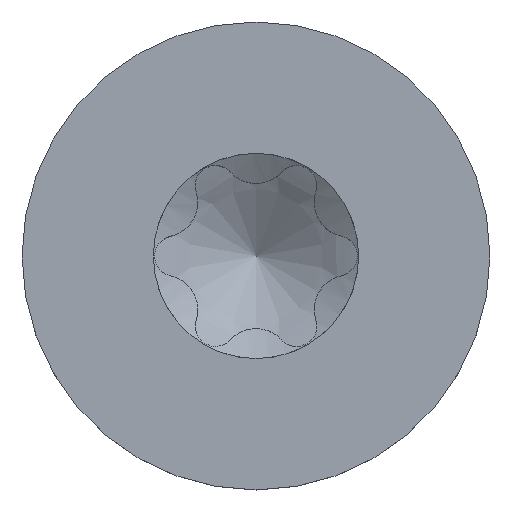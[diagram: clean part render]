
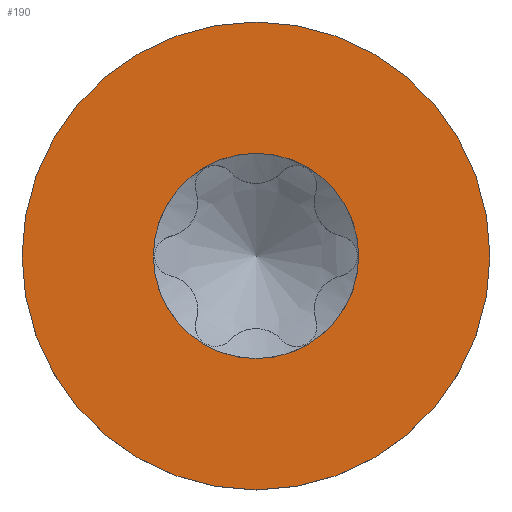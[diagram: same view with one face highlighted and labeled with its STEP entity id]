
A CAD part, top view. The second image highlights one B-rep face of the part: STEP entity #190.
In plain terms, the highlighted planar face has unit normal (0, 0, 1).
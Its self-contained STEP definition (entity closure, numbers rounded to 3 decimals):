
#119=PLANE('',#839);
#190=ADVANCED_FACE('',(#314,#315),#119,.F.);
#314=FACE_BOUND('',#336,.T.);
#315=FACE_BOUND('',#337,.T.);
#336=EDGE_LOOP('',(#424));
#337=EDGE_LOOP('',(#425));
#424=ORIENTED_EDGE('',*,*,#728,.F.);
#425=ORIENTED_EDGE('',*,*,#729,.F.);
#647=VERTEX_POINT('',#1649);
#648=VERTEX_POINT('',#1651);
#728=EDGE_CURVE('',#647,#647,#818,.T.);
#729=EDGE_CURVE('',#648,#648,#819,.T.);
#818=CIRCLE('',#837,0.735);
#819=CIRCLE('',#838,1.675);
#837=AXIS2_PLACEMENT_3D('',#1648,#891,#892);
#838=AXIS2_PLACEMENT_3D('',#1650,#893,#894);
#839=AXIS2_PLACEMENT_3D('',#1652,#895,#896);
#891=DIRECTION('',(0.,0.,1.));
#892=DIRECTION('',(-1.,0.,0.));
#893=DIRECTION('',(0.,0.,-1.));
#894=DIRECTION('',(-1.,0.,0.));
#895=DIRECTION('',(0.,0.,-1.));
#896=DIRECTION('',(-1.,0.,0.));
#1648=CARTESIAN_POINT('',(0.,0.,1.4));
#1649=CARTESIAN_POINT('',(-0.735,0.,1.4));
#1650=CARTESIAN_POINT('',(0.,0.,1.4));
#1651=CARTESIAN_POINT('',(-1.675,0.,1.4));
#1652=CARTESIAN_POINT('',(0.,0.,1.4));
